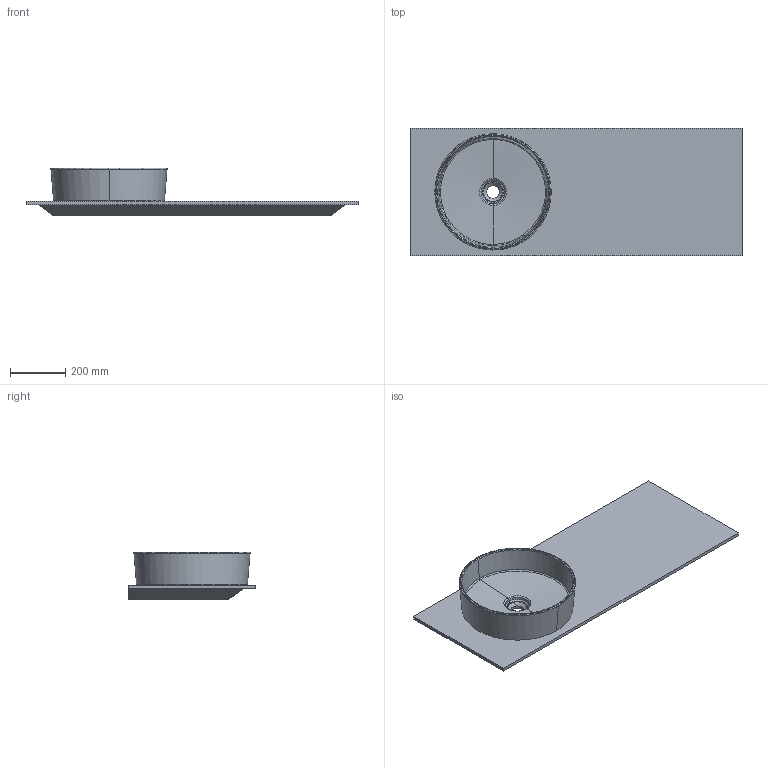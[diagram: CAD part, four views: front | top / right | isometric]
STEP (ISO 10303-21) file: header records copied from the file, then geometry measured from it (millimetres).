
FILE_DESCRIPTION(/* description */ (''),/* implementation_level */ '2;1');
FILE_NAME(/* name */ '3D18ED~1',/* time_stamp */ '2018-06-11T12:05:19+02:00',/* author */ (''),/* organization */ (''),/* preprocessor_version */ 'ST-DEVELOPER v15',/* originating_system */ '',/* authorisation */ '');
FILE_SCHEMA (('AUTOMOTIVE_DESIGN'));
Length unit declared in the file: millimetre
Products named in the file (1): Document
Bounding box: 1200 x 460 x 172 mm (x, y, z)
Volume: 11792307.2 mm3; surface area: 1720933 mm2
Topology: 2 solids, 2 shells, 191 faces, 440 edges, 260 vertices
Faces by surface type: bspline 154, plane 37
Entity records: 15716 total; most frequent: CARTESIAN_POINT 13096, ORIENTED_EDGE 880, EDGE_CURVE 440, VERTEX_POINT 260, B_SPLINE_CURVE_WITH_KNOTS 252, EDGE_LOOP 202, ADVANCED_FACE 191, FACE_OUTER_BOUND 191
